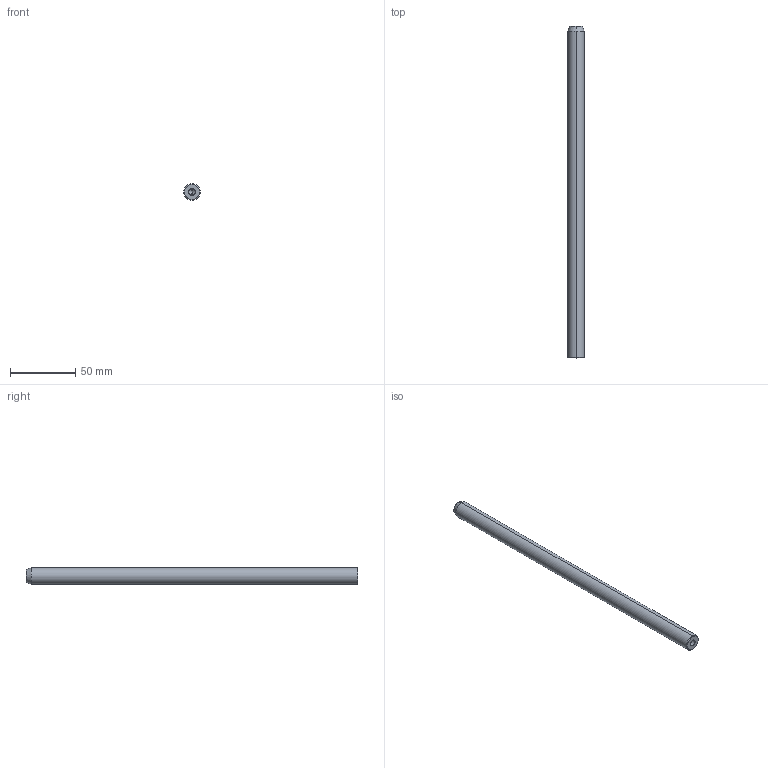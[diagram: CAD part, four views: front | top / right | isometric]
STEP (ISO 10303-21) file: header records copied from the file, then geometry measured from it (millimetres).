
FILE_DESCRIPTION (( 'STEP AP203' ), '1' );
FILE_NAME ('(STEP)M-PD-10.STEP', '2020-03-31T03:44:34', ( '' ), ( '' ), 'SwSTEP 2.0', 'SolidWorks 2019', '' );
FILE_SCHEMA (( 'CONFIG_CONTROL_DESIGN' ));
Length unit declared in the file: millimetre
Products named in the file (1): (STEP)M-PD-10
Bounding box: 12.7 x 254 x 12.7 mm (x, y, z)
Volume: 31738.5 mm3; surface area: 10590 mm2
Topology: 1 solids, 1 shells, 18 faces, 38 edges, 20 vertices
Faces by surface type: cone 8, cylinder 6, torus 2, plane 2
Entity records: 531 total; most frequent: DIRECTION 92, CARTESIAN_POINT 73, ORIENTED_EDGE 68, AXIS2_PLACEMENT_3D 39, EDGE_CURVE 34, VERTEX_POINT 20, CIRCLE 20, EDGE_LOOP 20
